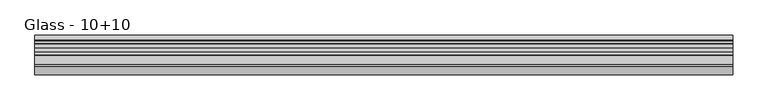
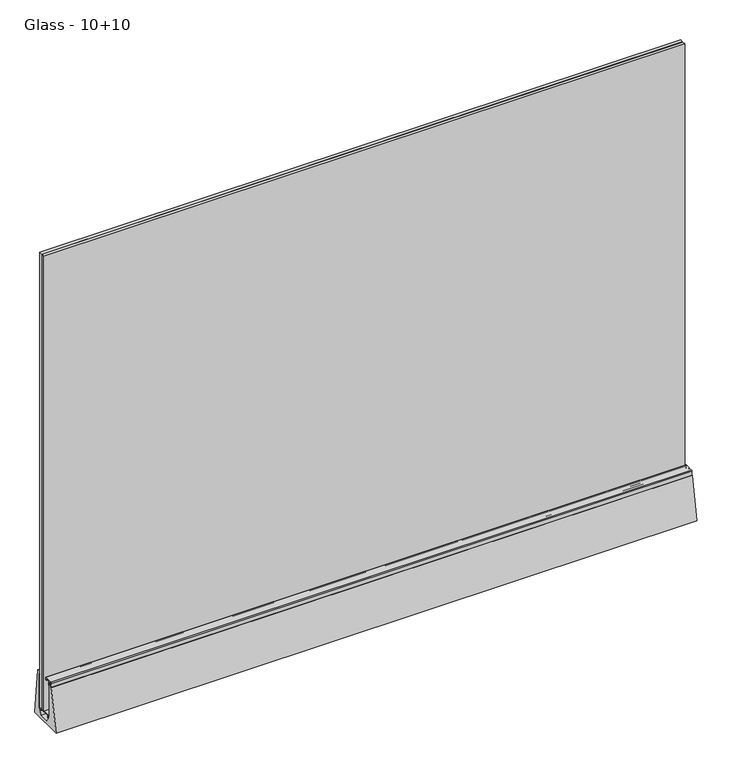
"""IFC4 building model written with IfcOpenShell, lengths in millimetres: proxy geometry, Construction_Slope-Glazing_Faraone_Linea-3-Maxi : Glass - 10+10."""

from ifc_helpers import new_model, si_unit, point, frame, frame_2d, origin, place, context, project, spatial, polyline, circle_curve, trimmed, segment, composite_curve, outline, extrude, source, transform, mapped, element, save


def glass_10_10_d606f08f(model_context):
    return source(origin(), model_context, "Body", "SweptSolid", [
        extrude(outline(polyline([(1000.0, 29.9536793), (1000.0, 20.0036793), (-1000.0, 20.0036793), (-1000.0, 29.9536793), (1000.0, 29.9536793)])), frame((0.0, 0.0, 32.9998941), z_axis=(0.0, 0.0, 1.0), x_axis=(1.0, 0.0, 0.0)), (0.0, 0.0, 1.0), 1500.0),
        extrude(outline(polyline([(1000.0, 18.4036793), (1000.0, 8.4536793), (-1000.0, 8.4536793), (-1000.0, 18.4036793), (1000.0, 18.4036793)])), frame((0.0, 0.0, 32.9998941), z_axis=(0.0, 0.0, 1.0), x_axis=(1.0, 0.0, 0.0)), (0.0, 0.0, 1.0), 1500.0),
        extrude(outline(polyline([(27.9495501, 27.4998941), (28.9495501, 27.4998941), (27.9495501, 23.9998941), (25.4495501, 23.9998941), (25.4495501, 29.9998941), (-10.950381, 29.9998941), (-10.950381, 23.9998941), (-13.450381, 23.9998941), (-14.4501535, 27.4998941), (-13.450381, 27.4998941), (-13.450381, 30.0001664), (-16.4959153, 30.0001664), (-16.4959153, 32.9998941), (30.7553177, 32.9998941), (30.7553177, 140.9999202), (33.4499946, 140.9999202), (33.4499946, 29.9998941), (27.9495501, 29.9998941), (27.9495501, 27.4998941)])), frame((-1000.0, 0.0, 0.0), z_axis=(1.0, 0.0, 0.0), x_axis=(0.0, 1.0, 0.0)), (0.0, 0.0, 1.0), 2000.0),
        extrude(outline(composite_curve([segment(trimmed(circle_curve(frame_2d((-0.5622607, 149.6202564)), 0.5), [point((-0.5622607, 150.1202564))], [point((-0.0622607, 149.6202564))], False, "CARTESIAN"), True, "CONTINUOUS"), segment(polyline([(-0.0622607, 149.6202564), (-0.0622607, 147.5116834), (-0.8559184, 147.5116834), (-0.8559184, 148.7592807), (-1.7540112, 148.7592807)]), True, "CONTINUOUS"), segment(trimmed(circle_curve(frame_2d((-1.7540112, 148.251018)), 0.5082627), [point((-1.7540112, 148.7592807))], [point((-2.2622739, 148.251018))], True, "CARTESIAN"), True, "CONTINUOUS"), segment(polyline([(-2.2622739, 148.251018), (-2.2622739, 143.7675435)]), True, "CONTINUOUS"), segment(trimmed(circle_curve(frame_2d((-1.7540112, 143.7675435)), 0.5082627), [point((-2.2622739, 143.7675435))], [point((-1.7540112, 143.2592807))], True, "CARTESIAN"), True, "CONTINUOUS"), segment(polyline([(-1.7540112, 143.2592807), (-0.8559184, 143.2592807), (-0.8559184, 144.5068781), (-0.0622607, 144.5068781), (-0.0622607, 142.5592807)]), True, "CONTINUOUS"), segment(trimmed(circle_curve(frame_2d((-0.5622607, 142.5592807)), 0.5), [point((-0.0622607, 142.5592807))], [point((-0.5622607, 142.0592807))], False, "CARTESIAN"), True, "CONTINUOUS"), segment(polyline([(-0.5622607, 142.0592807), (-2.9622736, 142.0592807)]), True, "CONTINUOUS"), segment(trimmed(circle_curve(frame_2d((-2.9622736, 142.559281)), 0.5000003), [point((-2.9622736, 142.0592807))], [point((-3.4622739, 142.559281))], False, "CARTESIAN"), True, "CONTINUOUS"), segment(polyline([(-3.4622739, 142.559281), (-3.4622739, 148.1202567)]), True, "CONTINUOUS"), segment(trimmed(circle_curve(frame_2d((-3.9622739, 148.1202567)), 0.5), [point((-3.4622739, 148.1202567))], [point((-3.9622739, 148.6202567))], True, "CARTESIAN"), True, "CONTINUOUS"), segment(polyline([(-3.9622739, 148.6202567), (-18.4381651, 148.6202569), (-18.4381651, 134.8497503), (-20.5252665, 134.8497503), (-20.5252665, 139.9087036), (-19.6381651, 139.9087036), (-19.6381651, 147.8202569)]), True, "CONTINUOUS"), segment(trimmed(circle_curve(frame_2d((-19.6381651, 148.2202569)), 0.4), [point((-19.6381651, 147.8202569))], [point((-19.6381651, 148.6202569))], True, "CARTESIAN"), True, "CONTINUOUS"), segment(polyline([(-19.6381651, 148.6202569), (-28.9632186, 148.6202569)]), True, "CONTINUOUS"), segment(trimmed(circle_curve(frame_2d((-28.9632186, 147.1202566)), 1.5000003), [point((-28.9632186, 148.6202569))], [point((-30.4632189, 147.1202566))], True, "CARTESIAN"), True, "CONTINUOUS"), segment(polyline([(-30.4632189, 147.1202566), (-30.4632189, 139.9087036), (-29.5827199, 139.9087036), (-29.5827199, 134.8497503), (-31.6632189, 134.8505456), (-31.6632189, 147.1202564)]), True, "CONTINUOUS"), segment(trimmed(circle_curve(frame_2d((-28.6632189, 147.1202564)), 3.0), [point((-31.6632189, 147.1202564))], [point((-28.6632189, 150.1202564))], False, "CARTESIAN"), True, "CONTINUOUS"), segment(polyline([(-28.6632189, 150.1202564), (-0.5622607, 150.1202564)]), True, "CONTINUOUS")], self_intersect=False)), frame((-1000.0, 0.0, 0.0), z_axis=(1.0, 0.0, 0.0), x_axis=(0.0, 1.0, 0.0)), (0.0, 0.0, 1.0), 2000.0),
        extrude(outline(composite_curve([segment(polyline([(-57.25, 0.0), (-31.812192, 134.8497503), (-29.5827199, 134.8497503), (-29.5827199, 141.7168813), (-20.5252665, 141.7168813), (-20.5252665, 134.8497503), (-18.9499762, 134.8497503), (-18.9499762, 30.0001664), (-13.9493491, 30.0001664), (-13.9493491, 28.0001664), (-19.2314658, 28.0001664), (-7.6590914, 11.0005351), (22.522986, 11.0002742), (33.5998649, 28.0000261), (28.4500912, 28.0000261), (28.4500912, 29.9998941), (33.4499946, 29.9998941), (33.4499271, 149.9042043), (40.4619354, 149.9042043)]), True, "CONTINUOUS"), segment(trimmed(circle_curve(frame_2d((40.4619354, 148.7574992)), 1.1467051), [point((40.4619354, 149.9042043))], [point((41.6023587, 148.8773626))], False, "CARTESIAN"), True, "CONTINUOUS"), segment(polyline([(41.6023587, 148.8773626), (57.25, 0.0), (-57.25, 0.0)]), True, "CONTINUOUS")], self_intersect=False)), frame((-1000.0, 0.0, 0.0), z_axis=(1.0, 0.0, 0.0), x_axis=(0.0, 1.0, 0.0)), (0.0, 0.0, 1.0), 2000.0),
    ])


if __name__ == "__main__":
    model = new_model("IFC4")
    model_context = context("Model", 3, world=origin())
    ifc_project = project(units=[si_unit("LENGTHUNIT", "METRE", prefix="MILLI")], contexts=[model_context])
    site = spatial("IfcSite", under=ifc_project)
    building = spatial("IfcBuilding", under=site)
    placement = place(None, origin())
    glass_10_10_shape = glass_10_10_d606f08f(model_context)
    element("IfcBuildingElementProxy", 1, Name="Construction_Slope-Glazing_Faraone_Linea-3-Maxi : Glass - 10+10", ObjectType="Construction_Slope-Glazing_Faraone_Linea-3-Maxi : Glass - 10+10", at=placement, inside=building, context=model_context, shape_type="MappedRepresentation", body=[
        mapped(glass_10_10_shape, transform((0.0, 0.0, 0.0), x_axis=(1.0, 0.0, 0.0), y_axis=(0.0, 1.0, 0.0), z_axis=(0.0, 0.0, 1.0))),
    ])
    save(model, "model.ifc")
